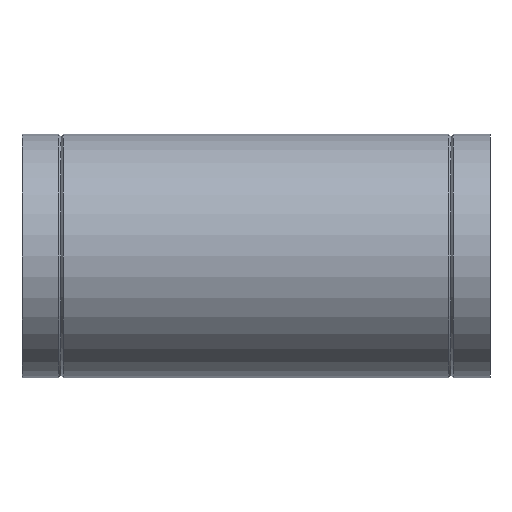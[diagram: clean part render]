
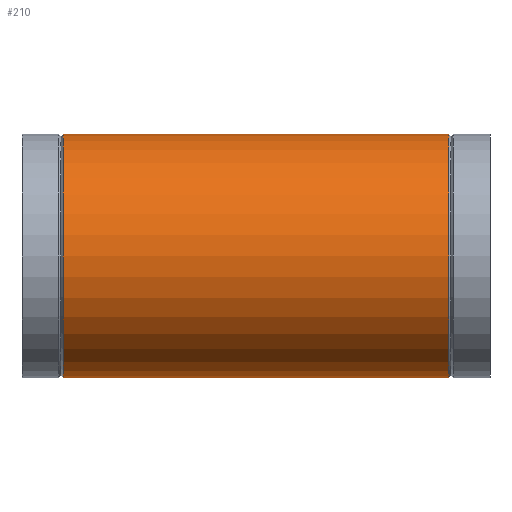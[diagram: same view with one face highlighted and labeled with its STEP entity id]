
A CAD part, left-side view. The second image highlights one B-rep face of the part: STEP entity #210.
In plain terms, the highlighted cylindrical face has radius 125 mm (diameter 250 mm), a full revolution.
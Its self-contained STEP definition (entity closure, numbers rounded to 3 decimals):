
#15=ELLIPSE($,#234,174.507,125.);
#16=ELLIPSE($,#235,179.137,125.);
#19=CYLINDRICAL_SURFACE($,#232,125.);
#28=FACE_BOUND($,#65,.T.);
#29=FACE_BOUND($,#66,.T.);
#50=FACE_OUTER_BOUND($,#64,.T.);
#64=EDGE_LOOP($,(#151));
#65=EDGE_LOOP($,(#152,#153));
#66=EDGE_LOOP($,(#154));
#96=CIRCLE($,#231,125.);
#97=CIRCLE($,#233,125.);
#111=VERTEX_POINT($,#341);
#112=VERTEX_POINT($,#344);
#113=VERTEX_POINT($,#346);
#114=VERTEX_POINT($,#347);
#130=EDGE_CURVE($,#111,#111,#96,.T.);
#131=EDGE_CURVE($,#112,#112,#97,.T.);
#132=EDGE_CURVE($,#113,#114,#15,.T.);
#133=EDGE_CURVE($,#114,#113,#16,.T.);
#151=ORIENTED_EDGE($,*,*,#131,.T.);
#152=ORIENTED_EDGE($,*,*,#132,.T.);
#153=ORIENTED_EDGE($,*,*,#133,.T.);
#154=ORIENTED_EDGE($,*,*,#130,.T.);
#210=ADVANCED_FACE($,(#50,#28,#29),#19,.T.);
#231=AXIS2_PLACEMENT_3D($,#342,#272,#273);
#232=AXIS2_PLACEMENT_3D($,#343,#274,#275);
#233=AXIS2_PLACEMENT_3D($,#345,#276,#277);
#234=AXIS2_PLACEMENT_3D($,#348,#278,#279);
#235=AXIS2_PLACEMENT_3D($,#349,#280,#281);
#272=DIRECTION('center_axis',(0.,-1.,0.));
#273=DIRECTION('ref_axis',(1.,0.,0.));
#274=DIRECTION('center_axis',(0.,1.,0.));
#275=DIRECTION('ref_axis',(1.,0.,0.));
#276=DIRECTION('center_axis',(0.,1.,0.));
#277=DIRECTION('ref_axis',(1.,0.,0.));
#278=DIRECTION('center_axis',(-0.698,-0.716,0.));
#279=DIRECTION('ref_axis',(0.716,-0.698,0.));
#280=DIRECTION('center_axis',(-0.716,0.698,0.));
#281=DIRECTION('ref_axis',(-0.698,-0.716,0.));
#341=CARTESIAN_POINT('',(125.,437.5,0.));
#342=CARTESIAN_POINT('Origin',(0.,437.5,0.));
#343=CARTESIAN_POINT('Origin',(0.,0.,0.));
#344=CARTESIAN_POINT('',(-125.,42.5,0.));
#345=CARTESIAN_POINT('Origin',(0.,42.5,0.));
#346=CARTESIAN_POINT('',(0.,240.,-125.));
#347=CARTESIAN_POINT('',(0.,240.,125.));
#348=CARTESIAN_POINT('Origin',(0.,240.,0.));
#349=CARTESIAN_POINT('Origin',(0.,240.,0.));
